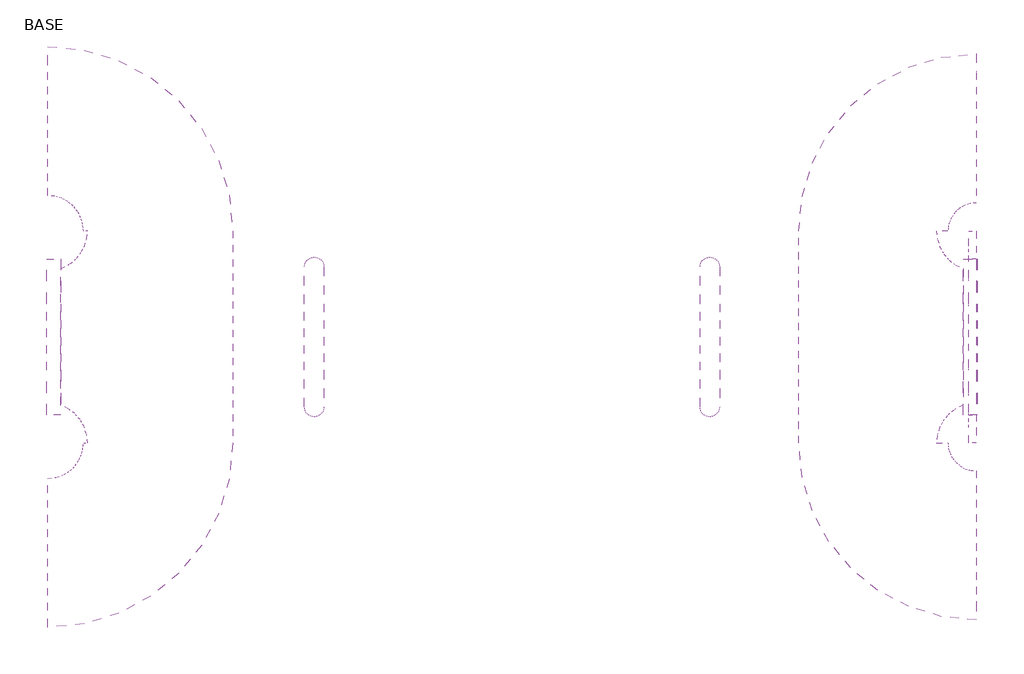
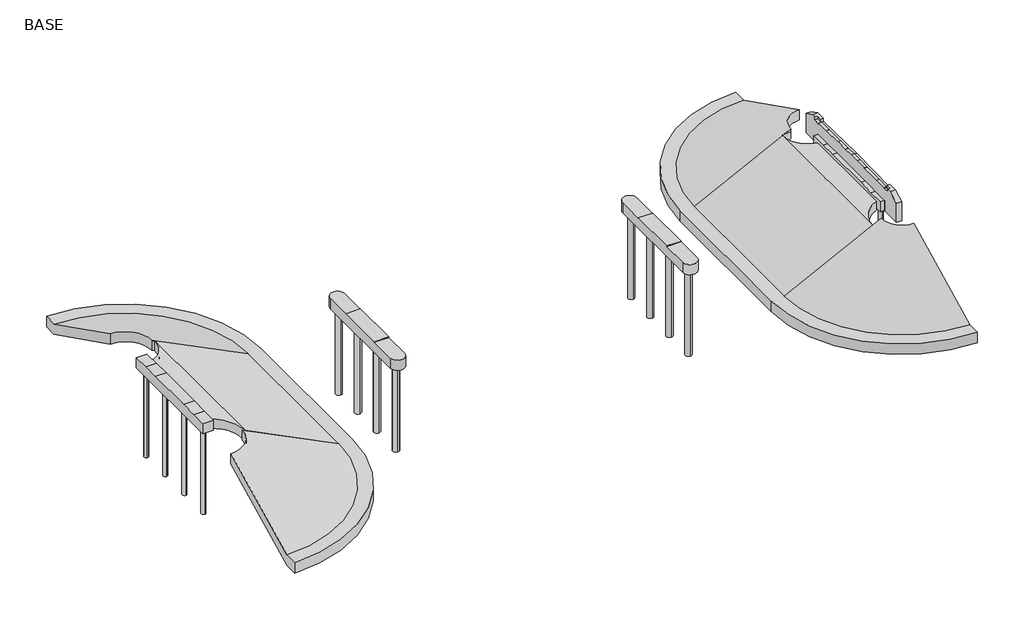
# One storey, incomplete: 9 proxies.
"""IFC4 building model written with IfcOpenShell, lengths in millimetres."""

from ifc_helpers import new_model, si_unit, origin, place, context, project, spatial, transform, mapped, element, save
from components import generic_models_fdd43730, generic_models_e6c3eeac, generic_models_2d12cc2b, generic_models_2d6eb1e5, generic_models_9df2782e, generic_models_2f90a7fc

model = new_model("IFC4")

# Units and contexts
model_context = context("Model", 3, world=origin())
ifc_project = project(units=[si_unit("LENGTHUNIT", "METRE", prefix="MILLI")], contexts=[model_context])

# Site, building, storey
site = spatial("IfcSite", under=ifc_project)
building = spatial("IfcBuilding", under=site)
storey = spatial("IfcBuildingStorey", under=building, Name="BASE", Elevation=0.0)

# Proxies
placement = place(None, origin())
generic_models_shape = generic_models_fdd43730(model_context)
element("IfcBuildingElementProxy", 1, Name="Backwall.sat", ObjectType="Backwall.sat", at=placement, inside=storey, context=model_context, shape_type="MappedRepresentation", body=[
    mapped(generic_models_shape, transform((32715.2, -1e-07, 864495.249416), x_axis=(0.0, -1.0, 0.0), y_axis=(0.0, 0.0, 1.0), z_axis=(1.0, 0.0, 0.0))),
])
generic_models_2_shape = generic_models_e6c3eeac(model_context)
element("IfcBuildingElementProxy", 2, Name="CapAbutAssemble.sat", ObjectType="CapAbutAssemble.sat", at=placement, inside=storey, context=model_context, shape_type="MappedRepresentation", body=[
    mapped(generic_models_2_shape, transform((-31800.8, 0.1653295, 864752.907016), x_axis=(0.0, 1.0, 0.0), y_axis=(0.0, 0.0, 1.0000000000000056), z_axis=(1.0000000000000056, 0.0, 0.0))),
])
element("IfcBuildingElementProxy", 3, Name="CapAbutAssemble.sat", ObjectType="CapAbutAssemble.sat", at=placement, inside=storey, context=model_context, shape_type="MappedRepresentation", body=[
    mapped(generic_models_2_shape, transform((31800.8, 0.1653295, 864495.249416), x_axis=(0.0, 1.0, 0.0), y_axis=(0.0, 0.0, 1.0000000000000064), z_axis=(-1.0000000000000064, 0.0, 0.0))),
])
generic_models_3_shape = generic_models_2d12cc2b(model_context)
element("IfcBuildingElementProxy", 4, Name="CapWWFiller.sat", ObjectType="CapWWFiller.sat", at=placement, inside=storey, context=model_context, shape_type="MappedRepresentation", body=[
    mapped(generic_models_3_shape, transform((32207.2, -5505.4500001, 864495.249416), x_axis=(1.0, 0.0, 0.0), y_axis=(0.0, 0.0, 1.0), z_axis=(0.0, 1.0, 0.0))),
])
element("IfcBuildingElementProxy", 5, Name="CapWWFiller.sat", ObjectType="CapWWFiller.sat", at=placement, inside=storey, context=model_context, shape_type="MappedRepresentation", body=[
    mapped(generic_models_3_shape, transform((32207.2, 5505.4499999, 864495.249416), x_axis=(1.0, 0.0, 0.0), y_axis=(0.0, 0.0, 1.0), z_axis=(0.0, -1.0, 0.0))),
])
generic_models_4_shape = generic_models_2d6eb1e5(model_context)
element("IfcBuildingElementProxy", 6, Name="CapPierAssemble.sat", ObjectType="CapPierAssemble.sat", at=placement, inside=storey, context=model_context, shape_type="MappedRepresentation", body=[
    mapped(generic_models_4_shape, transform((-13944.6, 0.0, 864688.331072), x_axis=(0.0, 1.0000000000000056, 0.0), y_axis=(1.0000000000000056, 0.0, 0.0), z_axis=(0.0, 0.0, -1.0))),
])
element("IfcBuildingElementProxy", 7, Name="CapPierAssemble.sat", ObjectType="CapPierAssemble.sat", at=placement, inside=storey, context=model_context, shape_type="MappedRepresentation", body=[
    mapped(generic_models_4_shape, transform((13944.6, 0.0, 864578.603072), x_axis=(0.0, 1.0000000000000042, 0.0), y_axis=(-1.0000000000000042, 0.0, 0.0), z_axis=(0.0, 0.0, -1.0))),
])
generic_models_5_shape = generic_models_9df2782e(model_context)
element("IfcBuildingElementProxy", 8, Name="RiprapB1.sat", ObjectType="RiprapB1.sat", at=placement, inside=storey, context=model_context, shape_type="MappedRepresentation", body=[
    mapped(generic_models_5_shape, transform((-32715.2, 0.0, 866671.115016), x_axis=(0.0, 0.0, 1.0), y_axis=(0.0, 1.0, 0.0), z_axis=(-1.0, 0.0, 0.0))),
])
generic_models_6_shape = generic_models_2f90a7fc(model_context)
element("IfcBuildingElementProxy", 9, Name="RiprapB4.sat", ObjectType="RiprapB4.sat", at=placement, inside=storey, context=model_context, shape_type="MappedRepresentation", body=[
    mapped(generic_models_6_shape, transform((32715.2, 0.0, 866413.457416), x_axis=(0.0, 0.0, 1.0), y_axis=(0.0, 1.0, 0.0), z_axis=(1.0, 0.0, 0.0))),
])

save(model, "model.ifc")
